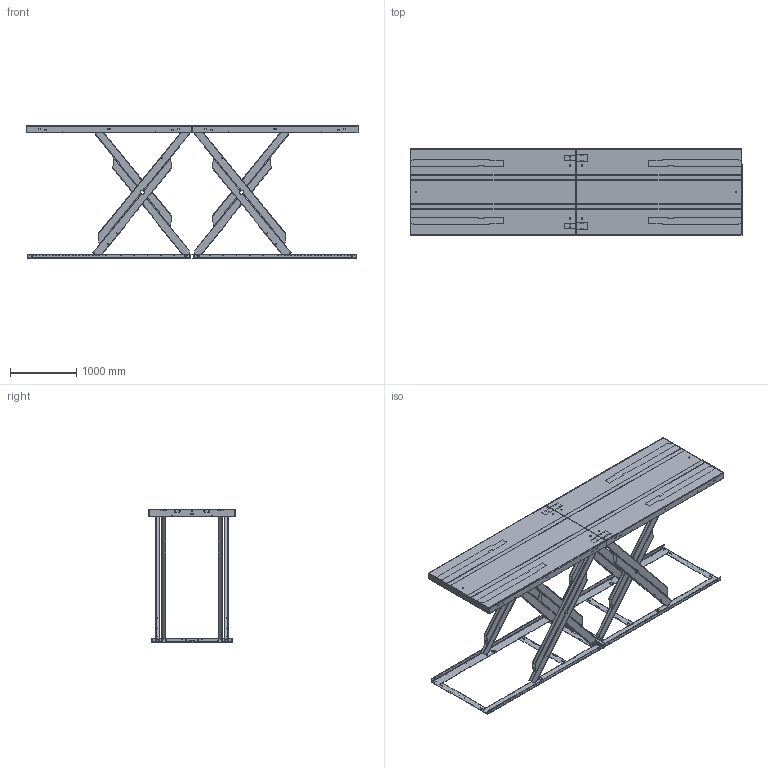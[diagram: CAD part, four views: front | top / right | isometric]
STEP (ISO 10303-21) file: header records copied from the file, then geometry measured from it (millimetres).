
FILE_DESCRIPTION(/* description */ ('TTH 6000'),/* implementation_level */ '2;1');
FILE_NAME(/* name */ 'C:\Autodesk_VaultWork\Ritningar\32885_Raised.stp',/* time_stamp */ '2019-04-18T13:16:52+02:00',/* author */ ('johso'),/* organization */ (''),/* preprocessor_version */ 'ST-DEVELOPER v16.5',/* originating_system */ 'Autodesk Inventor 2017',/* authorisation */ '');
FILE_SCHEMA (('AUTOMOTIVE_DESIGN { 1 0 10303 214 3 1 1 }'));
Products named in the file (34): 32885.tmp; 514617; 514609; 514610-1; 514610-5; 514610-2; 514610-4; 613993; 84175 - 1205; 612021; 612021_1; 32665; 32686; 80040-1850; 80040-1850_1; 32666; 32687; 80040-1850_2; 80040-2200; 613977; 613992; 42858; 45259; 613979; 613991; 613980; 613978; 614098; 605073; 45387; 80131; 43129-2485; 85955; 603235
Assembly tree (92 placements, depth 5):
  32885.tmp
    514617
      514609  x2
        514610-1
        514610-5
        514610-2
        514610-4
        45259
      613993
        84175 - 1205
    612021
      32665
        32686  x2
          80040-1850
          80040-1850_1
      32666
        32687  x2
          80040-1850_2
          80040-2200
    612021_1
      32665
        32686  x2
          80040-1850
          80040-1850_1
      32666
        32687  x2
          80040-1850_2
          80040-2200
    613977
      613992
      42858  x2
      45259  x2
      85955  x3
      613978
      614098
      605073  x2
      45387  x11
      80131  x6
      43129-2485  x2
    613979
      613991
      613980  x2
      85955  x3
      613978
      614098
      605073  x2
      45387  x11
      80131  x6
      43129-2485  x2
      603235  x4
Bounding box: 5000 x 1300 x 2000 mm (x, y, z)
Volume: 113797134.7 mm3; surface area: 46146495.5 mm2
Topology: 95 solids, 95 shells, 4720 faces, 13246 edges, 8760 vertices
Faces by surface type: plane 2250, cylinder 2230, cone 204, torus 36
Full cylindrical faces by diameter (mm): 5.6 x8, 7.4 x60, 8 x20, 10.2 x24, 10.5 x12, 11.63 x12, 12 x8, 12.5 x8, 13.835 x30, 14 x12, 14.5 x32, 15 x8, 18.8 x12, 19 x6, 28.1 x6
Entity records: 64734 total; most frequent: CARTESIAN_POINT 11663, DIRECTION 11114, ORIENTED_EDGE 10674, EDGE_CURVE 5337, AXIS2_PLACEMENT_3D 3812, VERTEX_POINT 3605, LINE 3490, VECTOR 3490
